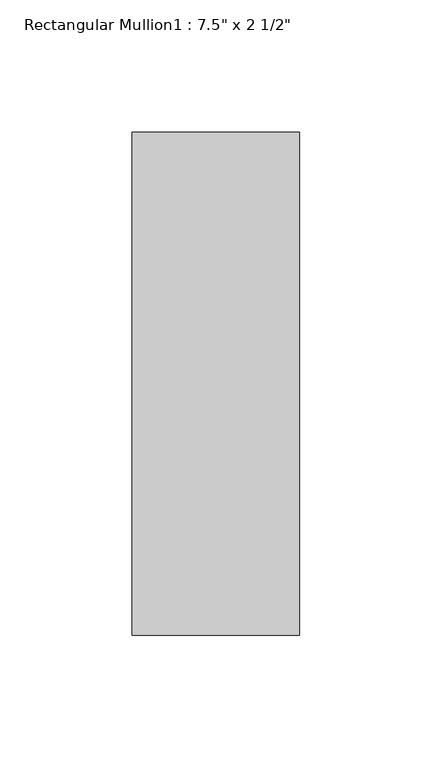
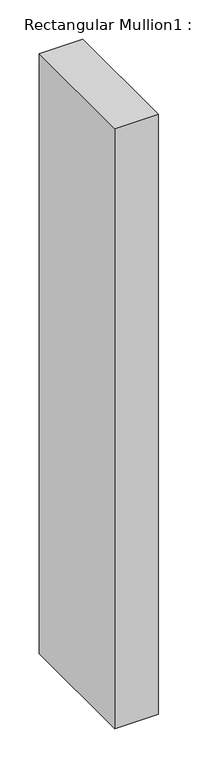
"""IFC4 building model written with IfcOpenShell, lengths in millimetres: member geometry."""

import ifcopenshell
import ifcopenshell.guid

model = None  # the IFC model being written
_history = None  # IfcOwnerHistory: only IFC2X3 demands one
_inside = {}  # id of a spatial element -> (the spatial element, [elements in it])
_under = {}  # id of a project, library or spatial element -> (it, [spatial elements below it])
_declared = {}  # id of a project -> (the project, [libraries it declares])
_typed = {}  # id of a type object -> (the type object, [elements of that type])
_made_of = {}  # id of a material, layer set ... -> (it, [elements and type objects made of it])


def new_model(schema):
    """Start an empty IFC model of exactly this schema.

    Asked for "IFC4X3", IfcOpenShell would pick the latest addendum, in which some entities
    have other attributes; the version numbers below select the first issue.
    IFC2X3 requires an IfcOwnerHistory on every rooted entity: one is made here for all.
    """
    global model, _history
    if schema == "IFC4X3":
        model = ifcopenshell.file(schema_version=(4, 3, 0, 0))
    else:
        model = ifcopenshell.file(schema=schema)
    _inside.clear()
    _under.clear()
    _declared.clear()
    _typed.clear()
    _made_of.clear()
    _history = None
    if model.schema == "IFC2X3":
        org = make("IfcOrganization", Name="unknown")
        user = make(
            "IfcPersonAndOrganization",
            ThePerson=make("IfcPerson", FamilyName="unknown"),
            TheOrganization=org,
        )
        app = make(
            "IfcApplication",
            ApplicationDeveloper=org,
            Version="unknown",
            ApplicationFullName="unknown",
            ApplicationIdentifier="unknown",
        )
        _history = make(
            "IfcOwnerHistory",
            OwningUser=user,
            OwningApplication=app,
            ChangeAction="ADDED",
            CreationDate=0,
        )
    return model


def make(cls, **values):
    """One entity of the class cls with the attributes given. An attribute that is None is left unset."""
    return model.create_entity(
        cls, **{name: value for name, value in values.items() if value is not None}
    )


def rooted(cls, **values):
    """An entity with a GlobalId (a new one), such as an element, a storey or a relation."""
    return make(cls, GlobalId=ifcopenshell.guid.new(), OwnerHistory=_history, **values)


def si_unit(unit_type, name, prefix=None):
    """IfcSIUnit, for example si_unit("LENGTHUNIT", "METRE", prefix="MILLI")."""
    return make("IfcSIUnit", UnitType=unit_type, Prefix=prefix, Name=name)


def assignment(units):
    """IfcUnitAssignment: the units of a project."""
    return None if units is None else make("IfcUnitAssignment", Units=units)


def point(xyz):
    """IfcCartesianPoint."""
    return None if xyz is None else make("IfcCartesianPoint", Coordinates=xyz)


def direction(xyz):
    """IfcDirection."""
    return None if xyz is None else make("IfcDirection", DirectionRatios=xyz)


def frame(location, z_axis=None, x_axis=None):
    """IfcAxis2Placement3D, a coordinate frame: its origin and axes. An axis left out is left unset."""
    return make(
        "IfcAxis2Placement3D",
        Location=point(location),
        Axis=direction(z_axis),
        RefDirection=direction(x_axis),
    )


def origin():
    """The frame at (0, 0, 0) with its axes left unset."""
    return frame((0.0, 0.0, 0.0))


def place(relative_to, where):
    """IfcLocalPlacement: puts the frame where relative to a parent placement (None: the world)."""
    return make(
        "IfcLocalPlacement", PlacementRelTo=relative_to, RelativePlacement=where
    )


def context(
    kind, dimensions, precision=None, world=None, true_north=None, identifier=None
):
    """IfcGeometricRepresentationContext, for example the 3D "Model" context."""
    return make(
        "IfcGeometricRepresentationContext",
        ContextIdentifier=identifier,
        ContextType=kind,
        CoordinateSpaceDimension=dimensions,
        Precision=precision,
        WorldCoordinateSystem=world,
        TrueNorth=true_north,
    )


def project(units=None, contexts=None):
    """IfcProject with its units and contexts."""
    return rooted(
        "IfcProject",
        Name="project",
        RepresentationContexts=contexts,
        UnitsInContext=assignment(units),
    )


def spatial(cls, under=None, at=None, **own):
    """A site, building, storey or space (cls), placed at a placement, below another one or the project."""
    s = rooted(cls, ObjectPlacement=at, **own)
    if under is not None:
        _under.setdefault(under.id(), (under, []))[1].append(s)
    return s


def polyline(points):
    """IfcPolyline through the points."""
    return make("IfcPolyline", Points=[point(p) for p in points])


def outline(outer, holes=None, kind="AREA"):
    """IfcArbitraryClosedProfileDef: a profile drawn as a closed curve; with holes, ...WithVoids."""
    if holes is None:
        return make("IfcArbitraryClosedProfileDef", ProfileType=kind, OuterCurve=outer)
    return make(
        "IfcArbitraryProfileDefWithVoids",
        ProfileType=kind,
        OuterCurve=outer,
        InnerCurves=holes,
    )


def extrude(swept, where, along, depth):
    """IfcExtrudedAreaSolid: the profile swept, set in the frame where, extruded along a direction by depth."""
    return make(
        "IfcExtrudedAreaSolid",
        SweptArea=swept,
        Position=where,
        ExtrudedDirection=direction(along),
        Depth=depth,
    )


def shape(context_of_items, identifier, shape_type, items):
    """IfcShapeRepresentation: the items that make up one representation, for example the "Body"."""
    return make(
        "IfcShapeRepresentation",
        ContextOfItems=context_of_items,
        RepresentationIdentifier=identifier,
        RepresentationType=shape_type,
        Items=items,
    )


def source(mapping_origin, context_of_items, identifier, shape_type, items):
    """IfcRepresentationMap: a shape defined once, which mapped items show again and again."""
    return make(
        "IfcRepresentationMap",
        MappingOrigin=mapping_origin,
        MappedRepresentation=shape(context_of_items, identifier, shape_type, items),
    )


def transform(
    local_origin,
    x_axis=None,
    y_axis=None,
    z_axis=None,
    scale=None,
    scale2=None,
    scale3=None,
    uniform=True,
):
    """IfcCartesianTransformationOperator3D, or its non-uniform kind. x_axis, y_axis, z_axis: its Axis1, 2, 3."""
    if uniform:
        return make(
            "IfcCartesianTransformationOperator3D",
            Axis1=direction(x_axis),
            Axis2=direction(y_axis),
            LocalOrigin=point(local_origin),
            Scale=scale,
            Axis3=direction(z_axis),
        )
    return make(
        "IfcCartesianTransformationOperator3DnonUniform",
        Axis1=direction(x_axis),
        Axis2=direction(y_axis),
        LocalOrigin=point(local_origin),
        Scale=scale,
        Axis3=direction(z_axis),
        Scale2=scale2,
        Scale3=scale3,
    )


def mapped(mapping_source, mapping_target):
    """IfcMappedItem: shows the shape of a source again, moved by a transform."""
    return make(
        "IfcMappedItem", MappingSource=mapping_source, MappingTarget=mapping_target
    )


def made_of(thing, what):
    """Note that an element or type object is made of a material, layer set ...; save() writes the relation."""
    if what is not None:
        _made_of.setdefault(what.id(), (what, []))[1].append(thing)
    return thing


def element(
    cls,
    number,
    at=None,
    inside=None,
    cuts=None,
    type_object=None,
    material=None,
    context=None,
    identifier="Body",
    shape_type=None,
    held_by="IfcProductDefinitionShape",
    body=None,
    shapes=None,
    **own,
):
    """One element of the class cls, such as IfcWall. Its Tag is "e" and its number.

    at: its placement. inside: the storey or other place that contains it. cuts: it is an
    opening in that element (IfcRelVoidsElement). A single representation is given by context,
    identifier, shape_type and body (its items); several are given by shapes. held_by: the class
    of the entity that holds the representations. save() writes the other relations.
    """
    e = rooted(cls, Tag="e%d" % number, ObjectPlacement=at, **own)
    if body is not None:
        shapes = [shape(context, identifier, shape_type, body)]
    if shapes is not None:
        e.Representation = make(held_by, Representations=shapes)
    if inside is not None:
        _inside.setdefault(inside.id(), (inside, []))[1].append(e)
    if cuts is not None:
        rooted(
            "IfcRelVoidsElement", RelatingBuildingElement=cuts, RelatedOpeningElement=e
        )
    if type_object is not None:
        _typed.setdefault(type_object.id(), (type_object, []))[1].append(e)
    return made_of(e, material)


def aggregate(whole, parts):
    """IfcRelAggregates: a whole, such as a stair, and the parts it consists of."""
    return rooted("IfcRelAggregates", RelatingObject=whole, RelatedObjects=parts)


def save(model, path):
    """Write the relations noted so far, then the file.

    IfcRelAggregates (storeys below a building ...), IfcRelContainedInSpatialStructure (elements
    in a storey), IfcRelDefinesByType, IfcRelAssociatesMaterial and IfcRelDeclares: one each for
    every whole, place, type object, material and project.
    """
    for whole, parts in _under.values():
        aggregate(whole, parts)
    for where, things in _inside.values():
        rooted(
            "IfcRelContainedInSpatialStructure",
            RelatedElements=things,
            RelatingStructure=where,
        )
    for kind, things in _typed.values():
        rooted("IfcRelDefinesByType", RelatedObjects=things, RelatingType=kind)
    for what, things in _made_of.values():
        rooted("IfcRelAssociatesMaterial", RelatedObjects=things, RelatingMaterial=what)
    for by, libraries in _declared.values():
        rooted("IfcRelDeclares", RelatingContext=by, RelatedDefinitions=libraries)
    model.write(path)


def member_d3881354(model_context):
    return source(origin(), model_context, "Body", "SweptSolid", [
        extrude(outline(polyline([(31.75, 165.1), (31.75, -25.4), (-31.75, -25.4), (-31.75, 165.1), (31.75, 165.1)])), frame((0.0, 0.0, -927.1), z_axis=(0.0, 0.0, 1.0), x_axis=(1.0, 0.0, 0.0)), (0.0, 0.0, 1.0), 927.1),
    ])


if __name__ == "__main__":
    model = new_model("IFC4")
    model_context = context("Model", 3, world=origin())
    ifc_project = project(units=[si_unit("LENGTHUNIT", "METRE", prefix="MILLI")], contexts=[model_context])
    site = spatial("IfcSite", under=ifc_project)
    building = spatial("IfcBuilding", under=site)
    placement = place(None, origin())
    member_shape = member_d3881354(model_context)
    element("IfcMember", 1, ObjectType="Rectangular Mullion1 : 7.5\" x 2 1/2\"", at=placement, inside=building, context=model_context, shape_type="MappedRepresentation", body=[
        mapped(member_shape, transform((0.0, 0.0, 0.0), x_axis=(1.0, 0.0, 0.0), y_axis=(0.0, 1.0, 0.0), z_axis=(0.0, 0.0, 1.0))),
    ])
    save(model, "model.ifc")
